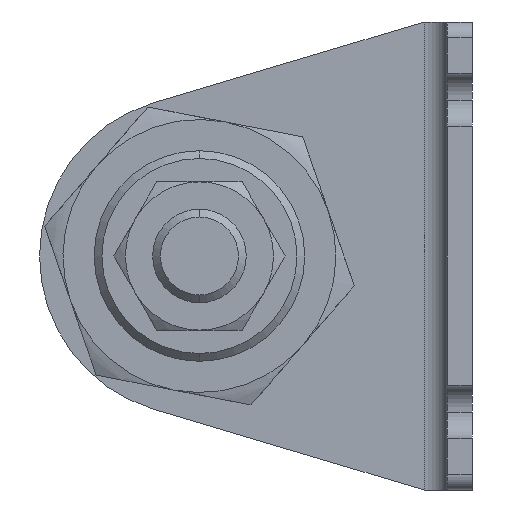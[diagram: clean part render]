
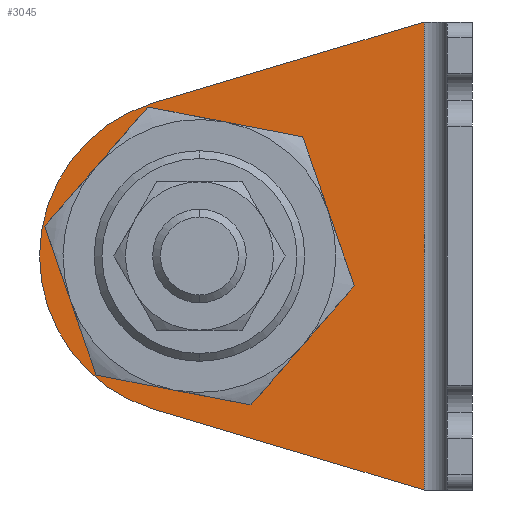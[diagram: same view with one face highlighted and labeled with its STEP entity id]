
A CAD part, left-side view. The second image highlights one B-rep face of the part: STEP entity #3045.
In plain terms, the highlighted planar face has unit normal (-1, 0, 0) as drawn and (1, 0, 0) by its records, which use the part's own axes.
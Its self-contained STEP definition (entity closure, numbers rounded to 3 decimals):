
#77 = DIRECTION ( 'NONE',  ( 1., 0., 0. ) ) ;
#178 = VERTEX_POINT ( 'NONE', #3694 ) ;
#310 = LINE ( 'NONE', #3196, #2969 ) ;
#312 = ORIENTED_EDGE ( 'NONE', *, *, #977, .F. ) ;
#352 = EDGE_CURVE ( 'NONE', #4279, #2395, #1760, .T. ) ;
#375 = VERTEX_POINT ( 'NONE', #2794 ) ;
#422 = EDGE_CURVE ( 'NONE', #2670, #3855, #3541, .T. ) ;
#437 = CARTESIAN_POINT ( 'NONE',  ( 3.2, 40.868, -49.642 ) ) ;
#465 = CARTESIAN_POINT ( 'NONE',  ( 3.2, 21.5, -30. ) ) ;
#564 = EDGE_CURVE ( 'NONE', #178, #375, #310, .T. ) ;
#576 = CARTESIAN_POINT ( 'NONE',  ( 3.2, 40.868, -10.358 ) ) ;
#638 = CARTESIAN_POINT ( 'NONE',  ( 3.2, 35., -30. ) ) ;
#693 = ORIENTED_EDGE ( 'NONE', *, *, #1974, .T. ) ;
#733 = DIRECTION ( 'NONE',  ( 0., 1., 0. ) ) ;
#747 = AXIS2_PLACEMENT_3D ( 'NONE', #638, #2578, #1573 ) ;
#819 = CARTESIAN_POINT ( 'NONE',  ( 3.2, 48.5, -30. ) ) ;
#888 = EDGE_LOOP ( 'NONE', ( #2765, #2530, #693, #312, #2207 ) ) ;
#977 = EDGE_CURVE ( 'NONE', #178, #2458, #3415, .T. ) ;
#1082 = EDGE_LOOP ( 'NONE', ( #4217, #3910 ) ) ;
#1213 = DIRECTION ( 'NONE',  ( 1., 0., 0. ) ) ;
#1394 = CARTESIAN_POINT ( 'NONE',  ( 3.2, 19.903, -4.094 ) ) ;
#1455 = DIRECTION ( 'NONE',  ( 0., 0.958, 0.286 ) ) ;
#1486 = CARTESIAN_POINT ( 'NONE',  ( 3.2, 35., -30. ) ) ;
#1555 = DIRECTION ( 'NONE',  ( 0., 1., 0. ) ) ;
#1573 = DIRECTION ( 'NONE',  ( 0., 1., 0. ) ) ;
#1614 = EDGE_CURVE ( 'NONE', #375, #4279, #3039, .T. ) ;
#1760 = CIRCLE ( 'NONE', #2033, 20.5 ) ;
#1778 = PLANE ( 'NONE',  #1836 ) ;
#1782 = CARTESIAN_POINT ( 'NONE',  ( 3.2, 3.446, -60.823 ) ) ;
#1826 = DIRECTION ( 'NONE',  ( 0., 1., 0. ) ) ;
#1836 = AXIS2_PLACEMENT_3D ( 'NONE', #2123, #77, #733 ) ;
#1974 = EDGE_CURVE ( 'NONE', #2395, #2458, #4052, .T. ) ;
#2016 = FACE_OUTER_BOUND ( 'NONE', #888, .T. ) ;
#2033 = AXIS2_PLACEMENT_3D ( 'NONE', #3156, #3790, #4106 ) ;
#2049 = EDGE_CURVE ( 'NONE', #3855, #2670, #3077, .T. ) ;
#2087 = AXIS2_PLACEMENT_3D ( 'NONE', #2825, #1213, #1555 ) ;
#2123 = CARTESIAN_POINT ( 'NONE',  ( 3.2, 3.2, -60. ) ) ;
#2207 = ORIENTED_EDGE ( 'NONE', *, *, #564, .T. ) ;
#2395 = VERTEX_POINT ( 'NONE', #2498 ) ;
#2458 = VERTEX_POINT ( 'NONE', #576 ) ;
#2498 = CARTESIAN_POINT ( 'NONE',  ( 3.2, 55.5, -30. ) ) ;
#2519 = VECTOR ( 'NONE', #1455, 1000. ) ;
#2530 = ORIENTED_EDGE ( 'NONE', *, *, #352, .T. ) ;
#2578 = DIRECTION ( 'NONE',  ( 1., 0., 0. ) ) ;
#2670 = VERTEX_POINT ( 'NONE', #465 ) ;
#2765 = ORIENTED_EDGE ( 'NONE', *, *, #1614, .T. ) ;
#2794 = CARTESIAN_POINT ( 'NONE',  ( 3.2, 6.2, -60. ) ) ;
#2825 = CARTESIAN_POINT ( 'NONE',  ( 3.2, 35., -30. ) ) ;
#2951 = VECTOR ( 'NONE', #3082, 1000. ) ;
#2969 = VECTOR ( 'NONE', #3212, 1000. ) ;
#3039 = LINE ( 'NONE', #1782, #2519 ) ;
#3045 = ADVANCED_FACE ( 'NONE', ( #3166, #2016 ), #1778, .T. ) ;
#3077 = CIRCLE ( 'NONE', #747, 13.5 ) ;
#3082 = DIRECTION ( 'NONE',  ( 0., 0.958, -0.286 ) ) ;
#3156 = CARTESIAN_POINT ( 'NONE',  ( 3.2, 35., -30. ) ) ;
#3166 = FACE_BOUND ( 'NONE', #1082, .T. ) ;
#3196 = CARTESIAN_POINT ( 'NONE',  ( 3.2, 6.2, -60. ) ) ;
#3212 = DIRECTION ( 'NONE',  ( 0., 0., -1. ) ) ;
#3415 = LINE ( 'NONE', #1394, #2951 ) ;
#3541 = CIRCLE ( 'NONE', #3774, 13.5 ) ;
#3694 = CARTESIAN_POINT ( 'NONE',  ( 3.2, 6.2, 0. ) ) ;
#3774 = AXIS2_PLACEMENT_3D ( 'NONE', #1486, #3826, #1826 ) ;
#3790 = DIRECTION ( 'NONE',  ( 1., 0., 0. ) ) ;
#3826 = DIRECTION ( 'NONE',  ( 1., 0., 0. ) ) ;
#3855 = VERTEX_POINT ( 'NONE', #819 ) ;
#3910 = ORIENTED_EDGE ( 'NONE', *, *, #422, .F. ) ;
#4052 = CIRCLE ( 'NONE', #2087, 20.5 ) ;
#4106 = DIRECTION ( 'NONE',  ( 0., 1., 0. ) ) ;
#4217 = ORIENTED_EDGE ( 'NONE', *, *, #2049, .F. ) ;
#4279 = VERTEX_POINT ( 'NONE', #437 ) ;
